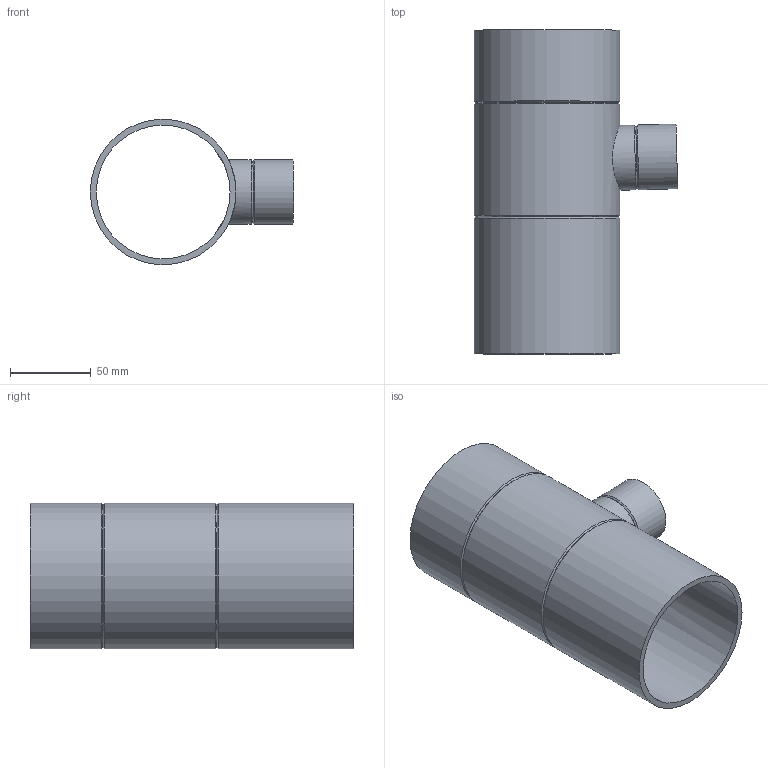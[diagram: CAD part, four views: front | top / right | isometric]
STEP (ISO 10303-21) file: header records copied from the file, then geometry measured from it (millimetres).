
FILE_DESCRIPTION(/* description */ (''),/* implementation_level */ '2;1');
FILE_NAME(/* name */ 'Z:\Geberit\Export\NewStep\366159.stp',/* time_stamp */ '2014-04-02T07:53:52+02:00',/* author */ ('nelson'),/* organization */ (''),/* preprocessor_version */ 'ST-DEVELOPER v15.2',/* originating_system */ 'Autodesk Inventor 2014',/* authorisation */ '');
FILE_SCHEMA (('AUTOMOTIVE_DESIGN { 1 0 10303 214 3 1 1 }'));
Length unit declared in the file: millimetre
Products named in the file (1): 366159
Bounding box: 126.19 x 201 x 90.38 mm (x, y, z)
Volume: 211115.4 mm3; surface area: 119236 mm2
Topology: 1 solids, 1 shells, 16 faces, 37 edges, 23 vertices
Faces by surface type: cylinder 7, cone 6, plane 3
Full cylindrical faces by diameter (mm): 33.9 x1, 40.2 x2, 83.02 x1, 90.38 x3
Entity records: 503 total; most frequent: CARTESIAN_POINT 181, DIRECTION 64, EDGE_LOOP 34, ORIENTED_EDGE 34, AXIS2_PLACEMENT_3D 32, FACE_BOUND 22, VERTEX_POINT 17, EDGE_CURVE 17
